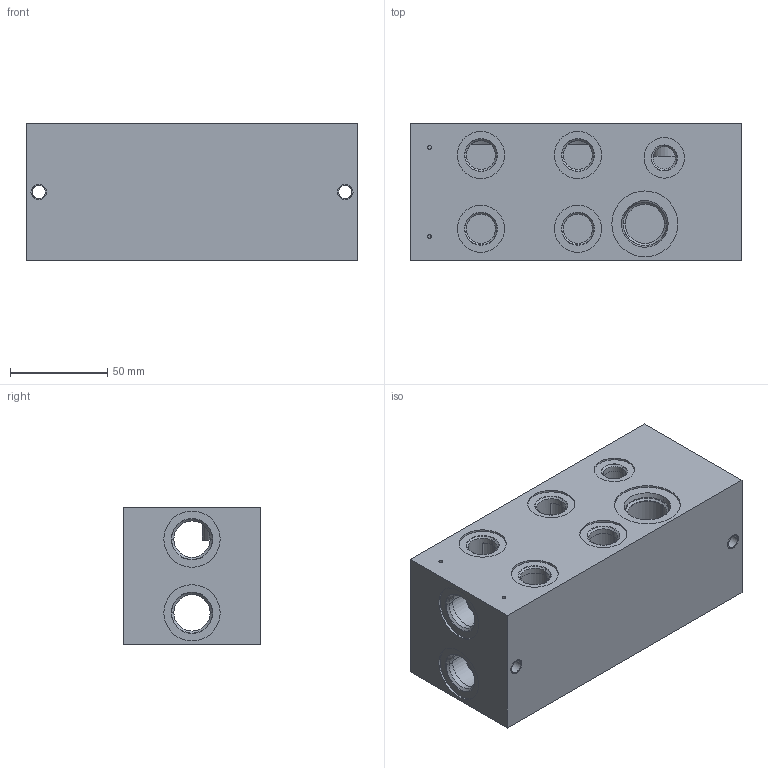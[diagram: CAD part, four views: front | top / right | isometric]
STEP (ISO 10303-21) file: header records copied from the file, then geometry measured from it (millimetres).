
FILE_DESCRIPTION((''),'2;1');
FILE_NAME('27564400','2015-11-27T',('Ahcz.brigadnik05'),(''),'PRO/ENGINEER BY PARAMETRIC TECHNOLOGY CORPORATION, 2015110','PRO/ENGINEER BY PARAMETRIC TECHNOLOGY CORPORATION, 2015110','');
FILE_SCHEMA(('AUTOMOTIVE_DESIGN { 1 0 10303 214 1 1 1 1 }'));
Length unit declared in the file: millimetre
Products named in the file (1): 27564400
Bounding box: 171 x 71 x 71 mm (x, y, z)
Volume: 291323.4 mm3; surface area: 117644.6 mm2
Topology: 1 solids, 26 shells, 237 faces, 865 edges, 797 vertices
Faces by surface type: cylinder 151, plane 52, cone 34
Entity records: 12744 total; most frequent: CARTESIAN_POINT 2370, DIRECTION 1666, ORIENTED_EDGE 1170, PRESENTATION_STYLE_ASSIGNMENT 918, STYLED_ITEM 918, CURVE_STYLE 886, EDGE_CURVE 635, AXIS2_PLACEMENT_3D 607
